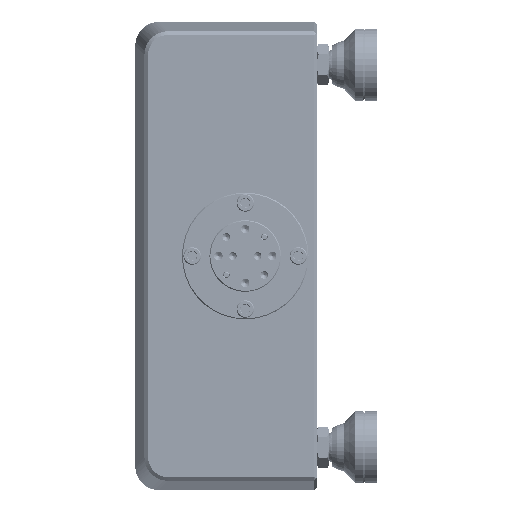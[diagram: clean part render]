
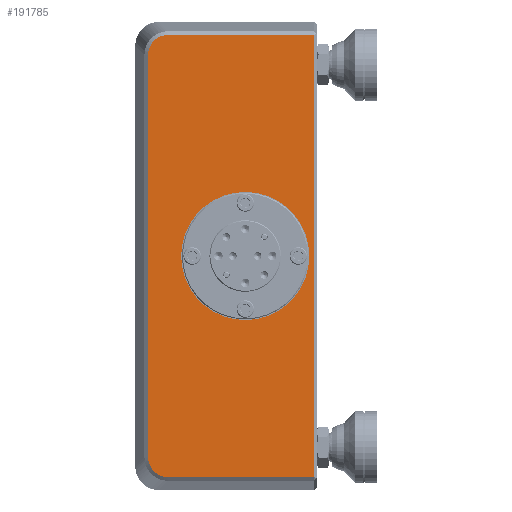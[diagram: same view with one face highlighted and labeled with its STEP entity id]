
A CAD part, left-side view. The second image highlights one B-rep face of the part: STEP entity #191785.
In plain terms, the highlighted planar face has unit normal (-1, 0, 0).
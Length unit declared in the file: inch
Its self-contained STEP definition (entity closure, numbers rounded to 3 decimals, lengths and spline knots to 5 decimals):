
#2636 = CARTESIAN_POINT ( 'NONE',  ( -2.75, -0.70801, -2.2321 ) ) ;
#3062 = CARTESIAN_POINT ( 'NONE',  ( -2.75, -0.8752, 2.31232 ) ) ;
#16017 = CARTESIAN_POINT ( 'NONE',  ( -2.75, -0.82021, -2.30689 ) ) ;
#20577 = DIRECTION ( 'NONE',  ( 1., 0., 0. ) ) ;
#22701 = CARTESIAN_POINT ( 'NONE',  ( -2.75, -1.68136, 0. ) ) ;
#24989 = CARTESIAN_POINT ( 'NONE',  ( -2.75, -1.68136, 0. ) ) ;
#25462 = CARTESIAN_POINT ( 'NONE',  ( -2.75, -0.66628, 0. ) ) ;
#25958 = B_SPLINE_CURVE_WITH_KNOTS ( 'NONE', 3,
 ( #103210, #154006, #50265, #29634, #2636, #120816, #96921, #16017, #140613, #208997 ),
 .UNSPECIFIED., .F., .F.,
 ( 4, 2, 2, 2, 4 ),
 ( 0., 0.25, 0.5, 0.75, 1. ),
 .UNSPECIFIED. ) ;
#27834 = LINE ( 'NONE', #42130, #140577 ) ;
#28554 = EDGE_CURVE ( 'NONE', #146119, #126450, #25958, .T. ) ;
#29218 = LINE ( 'NONE', #115237, #76790 ) ;
#29634 = CARTESIAN_POINT ( 'NONE',  ( -2.75, -0.69251, -2.20886 ) ) ;
#36277 = CARTESIAN_POINT ( 'NONE',  ( -2.75, -0.66628, -2.1034 ) ) ;
#42130 = CARTESIAN_POINT ( 'NONE',  ( -2.75, -1.48136, -2.31232 ) ) ;
#43828 = EDGE_LOOP ( 'NONE', ( #103289, #209330 ) ) ;
#47840 = ORIENTED_EDGE ( 'NONE', *, *, #80711, .T. ) ;
#50265 = CARTESIAN_POINT ( 'NONE',  ( -2.75, -0.67172, -2.15839 ) ) ;
#50473 = VERTEX_POINT ( 'NONE', #152329 ) ;
#50690 = CARTESIAN_POINT ( 'NONE',  ( -2.75, -0.84772, 2.31233 ) ) ;
#53399 = CIRCLE ( 'NONE', #155708, 0.67 ) ;
#53925 = CARTESIAN_POINT ( 'NONE',  ( -2.75, -0.76974, 2.28609 ) ) ;
#62031 = EDGE_CURVE ( 'NONE', #50473, #146119, #193199, .T. ) ;
#67093 = LINE ( 'NONE', #147762, #114249 ) ;
#68133 = FACE_BOUND ( 'NONE', #43828, .T. ) ;
#69517 = VERTEX_POINT ( 'NONE', #182555 ) ;
#72446 = FACE_OUTER_BOUND ( 'NONE', #140890, .T. ) ;
#73590 = DIRECTION ( 'NONE',  ( -1., 0., 0. ) ) ;
#76790 = VECTOR ( 'NONE', #144020, 39.37008 ) ;
#80711 = EDGE_CURVE ( 'NONE', #159394, #155275, #29218, .T. ) ;
#81080 = DIRECTION ( 'NONE',  ( 0., 0., 1. ) ) ;
#88451 = AXIS2_PLACEMENT_3D ( 'NONE', #188330, #20577, #105559 ) ;
#96921 = CARTESIAN_POINT ( 'NONE',  ( -2.75, -0.76974, -2.28609 ) ) ;
#103210 = CARTESIAN_POINT ( 'NONE',  ( -2.75, -0.66628, -2.1034 ) ) ;
#103289 = ORIENTED_EDGE ( 'NONE', *, *, #148146, .F. ) ;
#104165 = VERTEX_POINT ( 'NONE', #146505 ) ;
#105559 = DIRECTION ( 'NONE',  ( 0., 0., -1. ) ) ;
#107341 = AXIS2_PLACEMENT_3D ( 'NONE', #24989, #73590, #192737 ) ;
#114249 = VECTOR ( 'NONE', #152101, 39.37008 ) ;
#115237 = CARTESIAN_POINT ( 'NONE',  ( -2.75, -2.40136, 0. ) ) ;
#116334 = B_SPLINE_CURVE_WITH_KNOTS ( 'NONE', 3,
 ( #3062, #50690, #151133, #53925, #119062, #135634, #172021, #205097, #136706, #200775 ),
 .UNSPECIFIED., .F., .F.,
 ( 4, 2, 2, 2, 4 ),
 ( 0., 0.25, 0.5, 0.75, 1. ),
 .UNSPECIFIED. ) ;
#117382 = CARTESIAN_POINT ( 'NONE',  ( -2.75, -2.40136, 2.31232 ) ) ;
#119062 = CARTESIAN_POINT ( 'NONE',  ( -2.75, -0.74651, 2.2706 ) ) ;
#120816 = CARTESIAN_POINT ( 'NONE',  ( -2.75, -0.7465, -2.27061 ) ) ;
#123927 = EDGE_CURVE ( 'NONE', #171303, #104165, #53399, .T. ) ;
#126450 = VERTEX_POINT ( 'NONE', #216190 ) ;
#127126 = DIRECTION ( 'NONE',  ( 0., -1., 0. ) ) ;
#130617 = EDGE_CURVE ( 'NONE', #69517, #50473, #116334, .T. ) ;
#131692 = CARTESIAN_POINT ( 'NONE',  ( -2.75, -2.40136, -2.31232 ) ) ;
#134383 = EDGE_CURVE ( 'NONE', #126450, #159394, #27834, .T. ) ;
#135371 = ORIENTED_EDGE ( 'NONE', *, *, #62031, .T. ) ;
#135634 = CARTESIAN_POINT ( 'NONE',  ( -2.75, -0.708, 2.2321 ) ) ;
#136706 = CARTESIAN_POINT ( 'NONE',  ( -2.75, -0.66628, 2.13095 ) ) ;
#140577 = VECTOR ( 'NONE', #127126, 39.37008 ) ;
#140613 = CARTESIAN_POINT ( 'NONE',  ( -2.75, -0.84766, -2.31233 ) ) ;
#140890 = EDGE_LOOP ( 'NONE', ( #218026, #196475, #47840, #191750, #152610, #135371 ) ) ;
#144020 = DIRECTION ( 'NONE',  ( 0., 0., 1. ) ) ;
#146119 = VERTEX_POINT ( 'NONE', #36277 ) ;
#146505 = CARTESIAN_POINT ( 'NONE',  ( -2.75, -1.68136, 0.67 ) ) ;
#147762 = CARTESIAN_POINT ( 'NONE',  ( -2.75, -1.48136, 2.31232 ) ) ;
#148146 = EDGE_CURVE ( 'NONE', #104165, #171303, #216466, .T. ) ;
#151133 = CARTESIAN_POINT ( 'NONE',  ( -2.75, -0.82022, 2.30689 ) ) ;
#152101 = DIRECTION ( 'NONE',  ( 0., 1., 0. ) ) ;
#152329 = CARTESIAN_POINT ( 'NONE',  ( -2.75, -0.66628, 2.1034 ) ) ;
#152610 = ORIENTED_EDGE ( 'NONE', *, *, #130617, .T. ) ;
#154006 = CARTESIAN_POINT ( 'NONE',  ( -2.75, -0.66628, -2.13089 ) ) ;
#155275 = VERTEX_POINT ( 'NONE', #117382 ) ;
#155708 = AXIS2_PLACEMENT_3D ( 'NONE', #22701, #209196, #81080 ) ;
#159394 = VERTEX_POINT ( 'NONE', #131692 ) ;
#171303 = VERTEX_POINT ( 'NONE', #202346 ) ;
#172021 = CARTESIAN_POINT ( 'NONE',  ( -2.75, -0.69252, 2.20886 ) ) ;
#178862 = DIRECTION ( 'NONE',  ( 0., 0., -1. ) ) ;
#182555 = CARTESIAN_POINT ( 'NONE',  ( -2.75, -0.8752, 2.31232 ) ) ;
#187793 = EDGE_CURVE ( 'NONE', #155275, #69517, #67093, .T. ) ;
#188330 = CARTESIAN_POINT ( 'NONE',  ( -2.75, -1.48136, 0. ) ) ;
#191750 = ORIENTED_EDGE ( 'NONE', *, *, #187793, .T. ) ;
#191785 = ADVANCED_FACE ( 'NONE', ( #72446, #68133 ), #204892, .F. ) ;
#192737 = DIRECTION ( 'NONE',  ( 0., 0., 1. ) ) ;
#193199 = LINE ( 'NONE', #25462, #201899 ) ;
#196475 = ORIENTED_EDGE ( 'NONE', *, *, #134383, .T. ) ;
#200775 = CARTESIAN_POINT ( 'NONE',  ( -2.75, -0.66628, 2.1034 ) ) ;
#201899 = VECTOR ( 'NONE', #178862, 39.37008 ) ;
#202346 = CARTESIAN_POINT ( 'NONE',  ( -2.75, -1.68136, -0.67 ) ) ;
#204892 = PLANE ( 'NONE',  #88451 ) ;
#205097 = CARTESIAN_POINT ( 'NONE',  ( -2.75, -0.67171, 2.15839 ) ) ;
#208997 = CARTESIAN_POINT ( 'NONE',  ( -2.75, -0.8752, -2.31232 ) ) ;
#209196 = DIRECTION ( 'NONE',  ( -1., 0., 0. ) ) ;
#209330 = ORIENTED_EDGE ( 'NONE', *, *, #123927, .F. ) ;
#216190 = CARTESIAN_POINT ( 'NONE',  ( -2.75, -0.8752, -2.31232 ) ) ;
#216466 = CIRCLE ( 'NONE', #107341, 0.67 ) ;
#218026 = ORIENTED_EDGE ( 'NONE', *, *, #28554, .T. ) ;
